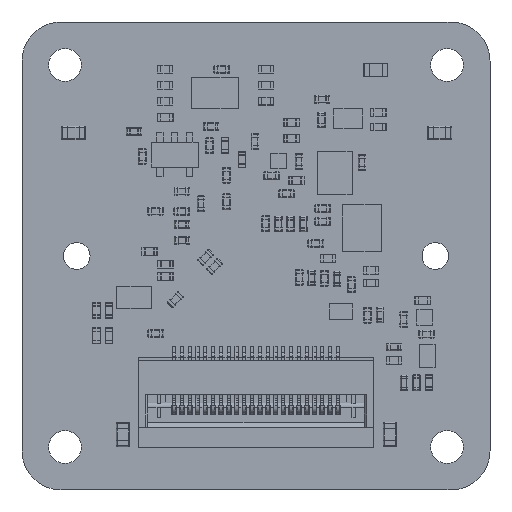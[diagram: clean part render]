
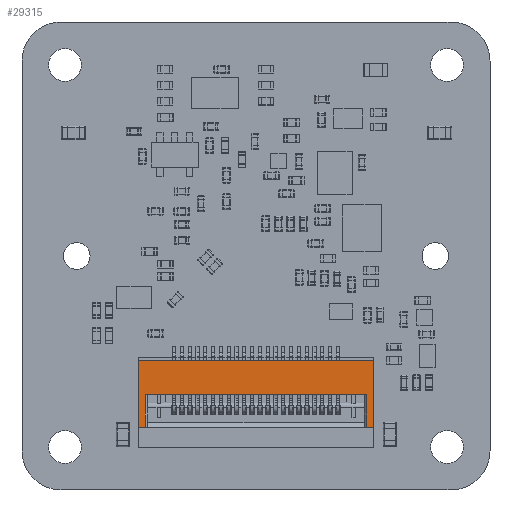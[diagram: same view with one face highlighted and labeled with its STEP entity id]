
A CAD part, top view. The second image highlights one B-rep face of the part: STEP entity #29315.
In plain terms, the highlighted planar face has unit normal (0, 0, 1).
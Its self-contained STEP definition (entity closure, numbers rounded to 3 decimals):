
#28347 = VERTEX_POINT('',#28348);
#28348 = CARTESIAN_POINT('',(-7.1,-0.15,1.1));
#28354 = EDGE_CURVE('',#28355,#28347,#28357,.T.);
#28355 = VERTEX_POINT('',#28356);
#28356 = CARTESIAN_POINT('',(-7.1,-2.25,1.1));
#28357 = LINE('',#28358,#28359);
#28358 = CARTESIAN_POINT('',(-7.1,-2.25,1.1));
#28359 = VECTOR('',#28360,1.);
#28360 = DIRECTION('',(0.,1.,0.));
#29315 = ADVANCED_FACE('',(#29316),#29373,.T.);
#29316 = FACE_BOUND('',#29317,.T.);
#29317 = EDGE_LOOP('',(#29318,#29328,#29336,#29344,#29350,#29351,#29359,
    #29367));
#29318 = ORIENTED_EDGE('',*,*,#29319,.T.);
#29319 = EDGE_CURVE('',#29320,#29322,#29324,.T.);
#29320 = VERTEX_POINT('',#29321);
#29321 = CARTESIAN_POINT('',(7.55,-2.25,1.1));
#29322 = VERTEX_POINT('',#29323);
#29323 = CARTESIAN_POINT('',(7.55,2.05,1.1));
#29324 = LINE('',#29325,#29326);
#29325 = CARTESIAN_POINT('',(7.55,-2.25,1.1));
#29326 = VECTOR('',#29327,1.);
#29327 = DIRECTION('',(0.,1.,0.));
#29328 = ORIENTED_EDGE('',*,*,#29329,.F.);
#29329 = EDGE_CURVE('',#29330,#29322,#29332,.T.);
#29330 = VERTEX_POINT('',#29331);
#29331 = CARTESIAN_POINT('',(-7.55,2.05,1.1));
#29332 = LINE('',#29333,#29334);
#29333 = CARTESIAN_POINT('',(-8.359,2.05,1.1));
#29334 = VECTOR('',#29335,1.);
#29335 = DIRECTION('',(1.,0.,0.));
#29336 = ORIENTED_EDGE('',*,*,#29337,.F.);
#29337 = EDGE_CURVE('',#29338,#29330,#29340,.T.);
#29338 = VERTEX_POINT('',#29339);
#29339 = CARTESIAN_POINT('',(-7.55,-2.25,1.1));
#29340 = LINE('',#29341,#29342);
#29341 = CARTESIAN_POINT('',(-7.55,-2.25,1.1));
#29342 = VECTOR('',#29343,1.);
#29343 = DIRECTION('',(0.,1.,0.));
#29344 = ORIENTED_EDGE('',*,*,#29345,.F.);
#29345 = EDGE_CURVE('',#28355,#29338,#29346,.T.);
#29346 = LINE('',#29347,#29348);
#29347 = CARTESIAN_POINT('',(7.55,-2.25,1.1));
#29348 = VECTOR('',#29349,1.);
#29349 = DIRECTION('',(-1.,0.,0.));
#29350 = ORIENTED_EDGE('',*,*,#28354,.T.);
#29351 = ORIENTED_EDGE('',*,*,#29352,.T.);
#29352 = EDGE_CURVE('',#28347,#29353,#29355,.T.);
#29353 = VERTEX_POINT('',#29354);
#29354 = CARTESIAN_POINT('',(7.1,-0.15,1.1));
#29355 = LINE('',#29356,#29357);
#29356 = CARTESIAN_POINT('',(5.8,-0.15,1.1));
#29357 = VECTOR('',#29358,1.);
#29358 = DIRECTION('',(1.,0.,0.));
#29359 = ORIENTED_EDGE('',*,*,#29360,.T.);
#29360 = EDGE_CURVE('',#29353,#29361,#29363,.T.);
#29361 = VERTEX_POINT('',#29362);
#29362 = CARTESIAN_POINT('',(7.1,-2.25,1.1));
#29363 = LINE('',#29364,#29365);
#29364 = CARTESIAN_POINT('',(7.1,-2.25,1.1));
#29365 = VECTOR('',#29366,1.);
#29366 = DIRECTION('',(0.,-1.,0.));
#29367 = ORIENTED_EDGE('',*,*,#29368,.F.);
#29368 = EDGE_CURVE('',#29320,#29361,#29369,.T.);
#29369 = LINE('',#29370,#29371);
#29370 = CARTESIAN_POINT('',(7.55,-2.25,1.1));
#29371 = VECTOR('',#29372,1.);
#29372 = DIRECTION('',(-1.,0.,0.));
#29373 = PLANE('',#29374);
#29374 = AXIS2_PLACEMENT_3D('',#29375,#29376,#29377);
#29375 = CARTESIAN_POINT('',(7.55,-2.25,1.1));
#29376 = DIRECTION('',(0.,0.,1.));
#29377 = DIRECTION('',(1.,0.,-0.));
